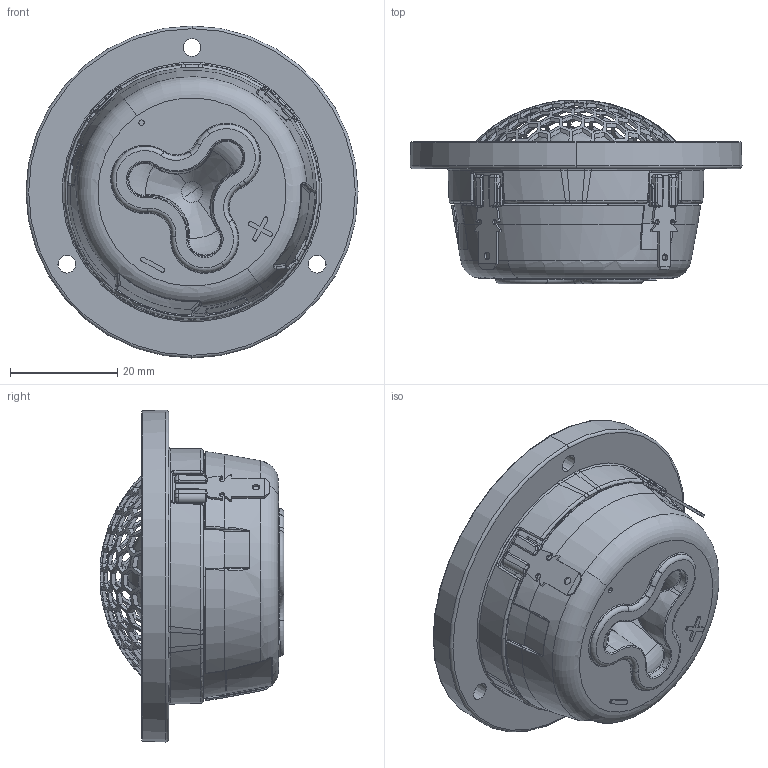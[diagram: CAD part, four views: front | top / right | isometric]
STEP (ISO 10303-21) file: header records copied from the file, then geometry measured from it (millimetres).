
FILE_DESCRIPTION (( 'STEP AP214' ), '1' );
FILE_NAME ('D3004-602006.STEP', '2020-12-15T10:48:54', ( '' ), ( '' ), 'SwSTEP 2.0', 'SolidWorks 2019', '' );
FILE_SCHEMA (( 'AUTOMOTIVE_DESIGN' ));
Length unit declared in the file: millimetre
Products named in the file (1): D3004-602006
Bounding box: 61.91 x 34.28 x 61.91 mm (x, y, z)
Volume: 42500.9 mm3; surface area: 14877.5 mm2
Topology: 2 solids, 6 shells, 1301 faces, 3642 edges, 2329 vertices
Faces by surface type: plane 743, bspline 154, cylinder 129, cone 128, torus 127, sphere 20
Entity records: 61242 total; most frequent: CARTESIAN_POINT 13604, ORIENTED_EDGE 7242, DIRECTION 7224, EDGE_CURVE 3621, AXIS2_PLACEMENT_3D 3104, VERTEX_POINT 2329, CIRCLE 1956, EDGE_LOOP 1456
